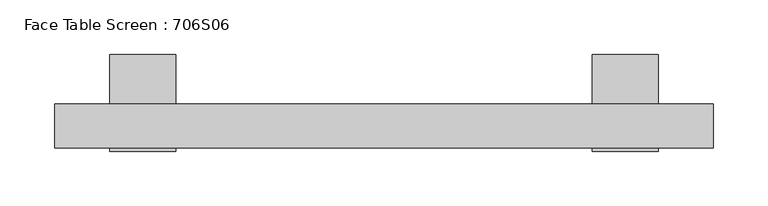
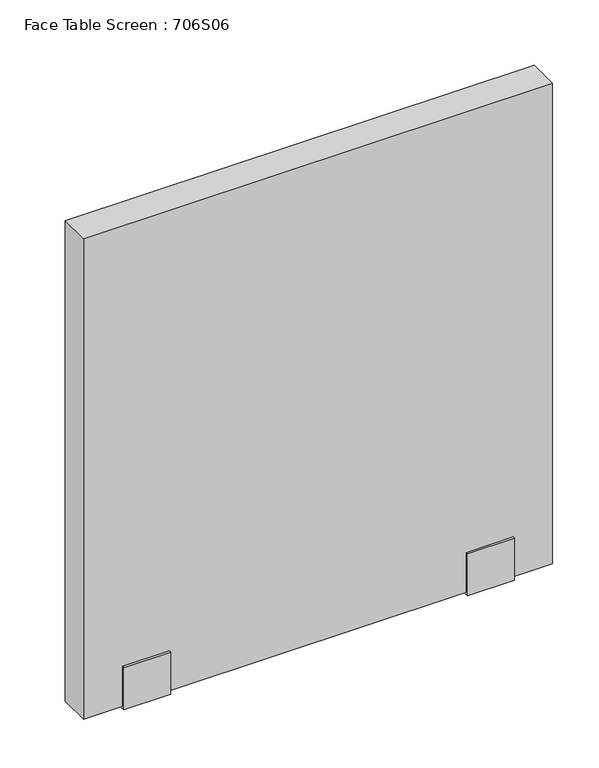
"""IFC4 building model written with IfcOpenShell, lengths in millimetres: furniture geometry, Face Table Screen : 706S06."""

from ifc_helpers import new_model, si_unit, frame, origin, place, context, project, spatial, polyline, outline, extrude, source, transform, mapped, element, save


def face_table_screen_706s06_e9929ecb(model_context):
    return source(origin(), model_context, "Body", "SweptSolid", [
        extrude(outline(polyline([(-22.9999947, -156.0), (-22.9999997, -99.0433898), (-20.0, -99.0433898), (-20.0, -153.0), (20.0, -153.0), (20.0, -22.0), (65.0, -22.0), (65.0, -25.0433898), (23.0000062, -25.0433898), (22.9999947, -156.0), (-22.9999947, -156.0)])), frame((190.0, 0.0, 0.0), z_axis=(1.0, 0.0, 0.0), x_axis=(0.0, 1.0, 0.0)), (0.0, 0.0, 1.0), 60.0),
        extrude(outline(polyline([(-22.9999947, -156.0), (-22.9999997, -99.0433898), (-20.0, -99.0433898), (-20.0, -153.0), (20.0, -153.0), (20.0, -22.0), (65.0, -22.0), (65.0, -25.0433898), (23.0000062, -25.0433898), (22.9999947, -156.0), (-22.9999947, -156.0)])), frame((-250.0, 0.0, 0.0), z_axis=(1.0, 0.0, 0.0), x_axis=(0.0, 1.0, 0.0)), (0.0, 0.0, 1.0), 60.0),
        extrude(outline(polyline([(300.0, -20.0), (-300.0, -20.0), (-300.0, 20.0), (300.0, 20.0), (300.0, -20.0)])), frame((0.0, 0.0, -153.0), z_axis=(0.0, 0.0, 1.0), x_axis=(1.0, 0.0, 0.0)), (0.0, 0.0, 1.0), 650.0),
    ])


if __name__ == "__main__":
    model = new_model("IFC4")
    model_context = context("Model", 3, world=origin())
    ifc_project = project(units=[si_unit("LENGTHUNIT", "METRE", prefix="MILLI")], contexts=[model_context])
    site = spatial("IfcSite", under=ifc_project)
    building = spatial("IfcBuilding", under=site)
    placement = place(None, origin())
    face_table_screen_706s06_shape = face_table_screen_706s06_e9929ecb(model_context)
    element("IfcFurniture", 1, ObjectType="Face Table Screen : 706S06", at=placement, inside=building, context=model_context, shape_type="MappedRepresentation", body=[
        mapped(face_table_screen_706s06_shape, transform((0.0, 0.0, 0.0), x_axis=(1.0, 0.0, 0.0), y_axis=(0.0, 1.0, 0.0), z_axis=(0.0, 0.0, 1.0))),
    ])
    save(model, "model.ifc")
